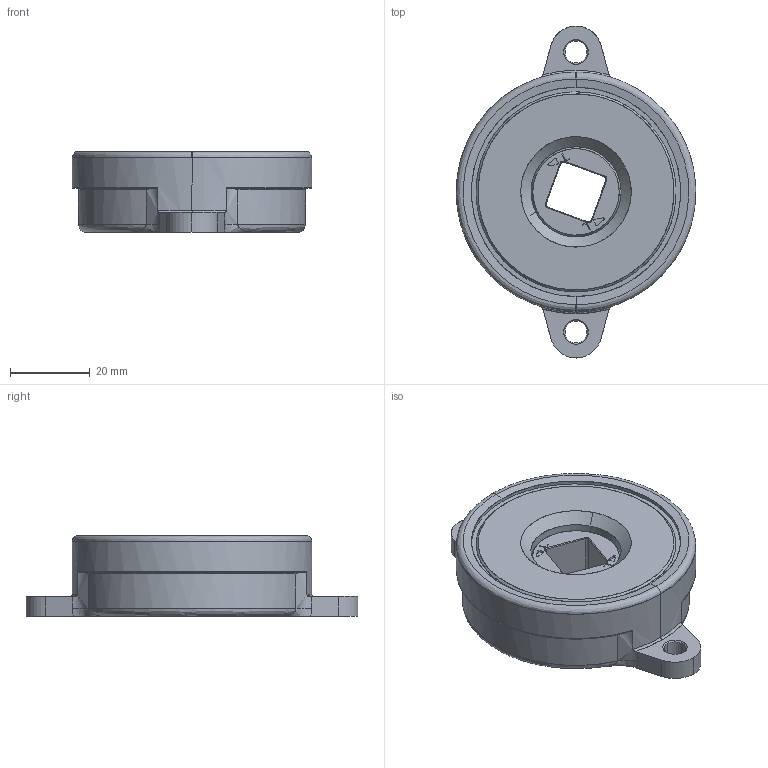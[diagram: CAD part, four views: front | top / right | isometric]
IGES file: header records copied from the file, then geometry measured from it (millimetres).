
Start section: SolidWorks IGES file using NURBS representation for surfaces
Global section: file name: V:\TempData\CAD仮置き用\20150604_不二ラテックス_酒巻様\FYN-S1-L104.IGS,15HSolidWorks; native system: 2012; preprocessor: SolidWorks 2012; author: 56050; date: 150605.135941; units: millimetre
Bounding box: 59.87 x 83 x 20.24 mm (x, y, z)
Surface area: 11571.4 mm2 (no closed solid volume)
Topology: 0 solids, 0 shells, 117 faces, 1481 edges, 1475 vertices
Faces by surface type: bspline 117
